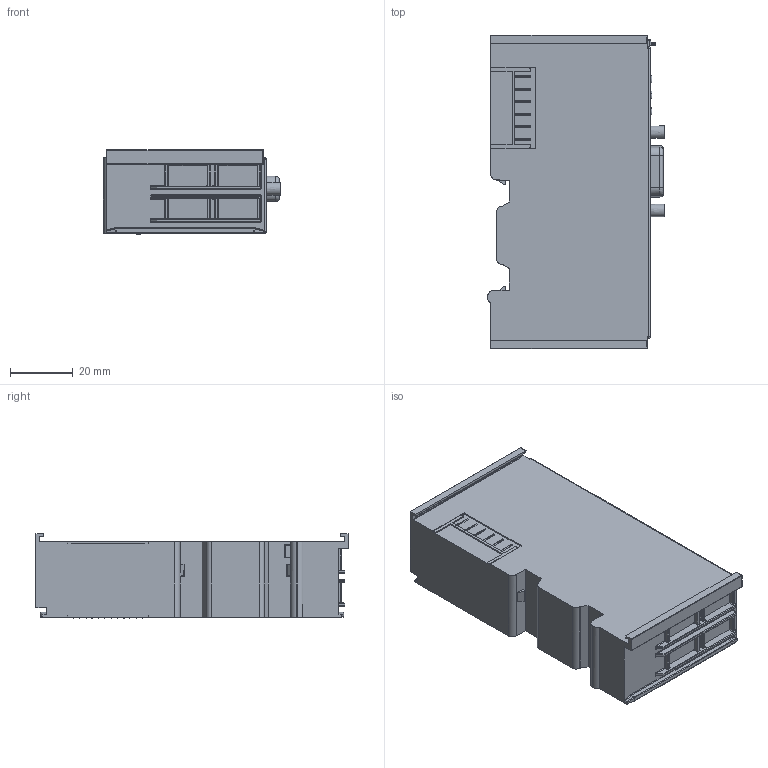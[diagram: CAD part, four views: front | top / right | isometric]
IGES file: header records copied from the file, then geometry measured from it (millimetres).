
Global section: file name: EL_6861; native system: Autodesk Inventor 2017; preprocessor: unknown; author: PaulSch; date: 20170524.095009; units: millimetre
Bounding box: 56.5 x 100 x 26.97 mm (x, y, z)
Volume: 115039.8 mm3; surface area: 21217.3 mm2
Topology: 1 solids, 4 shells, 1319 faces, 3280 edges, 1980 vertices
Faces by surface type: bspline 1319
